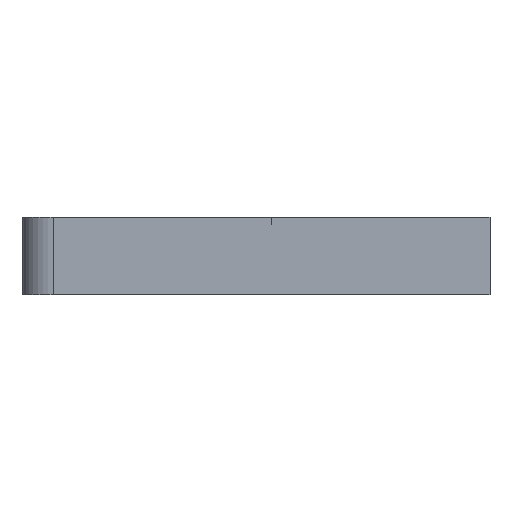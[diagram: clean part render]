
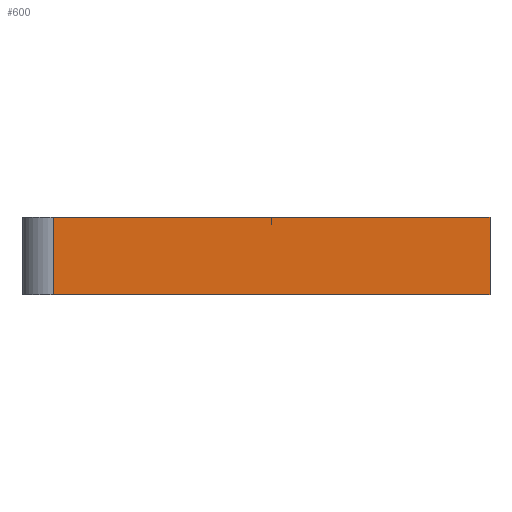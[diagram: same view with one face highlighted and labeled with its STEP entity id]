
A CAD part, left-side view. The second image highlights one B-rep face of the part: STEP entity #600.
In plain terms, the highlighted planar face has unit normal (-1, 0, 0).
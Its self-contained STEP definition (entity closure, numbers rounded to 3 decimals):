
#4 = VECTOR ( 'NONE', #616, 1000. ) ;
#9 = ORIENTED_EDGE ( 'NONE', *, *, #270, .T. ) ;
#14 = CARTESIAN_POINT ( 'NONE',  ( -102.937, -33.723, 5. ) ) ;
#23 = CARTESIAN_POINT ( 'NONE',  ( -102.937, -33.723, 5. ) ) ;
#30 = CARTESIAN_POINT ( 'NONE',  ( -102.937, -5.723, 5. ) ) ;
#67 = CARTESIAN_POINT ( 'NONE',  ( -102.937, -33.723, 0. ) ) ;
#72 = DIRECTION ( 'NONE',  ( 0., 0., -1. ) ) ;
#98 = VERTEX_POINT ( 'NONE', #152 ) ;
#104 = LINE ( 'NONE', #507, #143 ) ;
#112 = DIRECTION ( 'NONE',  ( 0., -1., 0. ) ) ;
#119 = FACE_OUTER_BOUND ( 'NONE', #574, .T. ) ;
#143 = VECTOR ( 'NONE', #72, 1000. ) ;
#152 = CARTESIAN_POINT ( 'NONE',  ( -102.937, -33.723, 0. ) ) ;
#160 = LINE ( 'NONE', #67, #612 ) ;
#165 = DIRECTION ( 'NONE',  ( 0., 0., -1. ) ) ;
#211 = LINE ( 'NONE', #309, #429 ) ;
#219 = ORIENTED_EDGE ( 'NONE', *, *, #629, .T. ) ;
#255 = CARTESIAN_POINT ( 'NONE',  ( -102.937, -5.723, 5. ) ) ;
#270 = EDGE_CURVE ( 'NONE', #555, #455, #456, .T. ) ;
#293 = CARTESIAN_POINT ( 'NONE',  ( -102.937, -5.723, 0. ) ) ;
#309 = CARTESIAN_POINT ( 'NONE',  ( -102.937, -33.723, 5. ) ) ;
#312 = DIRECTION ( 'NONE',  ( 1., 0., 0. ) ) ;
#375 = ORIENTED_EDGE ( 'NONE', *, *, #552, .F. ) ;
#399 = AXIS2_PLACEMENT_3D ( 'NONE', #14, #312, #165 ) ;
#410 = VERTEX_POINT ( 'NONE', #23 ) ;
#414 = DIRECTION ( 'NONE',  ( 0., -1., 0. ) ) ;
#429 = VECTOR ( 'NONE', #414, 1000. ) ;
#432 = ORIENTED_EDGE ( 'NONE', *, *, #618, .F. ) ;
#455 = VERTEX_POINT ( 'NONE', #293 ) ;
#456 = LINE ( 'NONE', #30, #4 ) ;
#507 = CARTESIAN_POINT ( 'NONE',  ( -102.937, -33.723, 5. ) ) ;
#547 = PLANE ( 'NONE',  #399 ) ;
#552 = EDGE_CURVE ( 'NONE', #555, #410, #211, .T. ) ;
#555 = VERTEX_POINT ( 'NONE', #255 ) ;
#574 = EDGE_LOOP ( 'NONE', ( #219, #432, #375, #9 ) ) ;
#600 = ADVANCED_FACE ( 'NONE', ( #119 ), #547, .F. ) ;
#612 = VECTOR ( 'NONE', #112, 1000. ) ;
#616 = DIRECTION ( 'NONE',  ( 0., 0., -1. ) ) ;
#618 = EDGE_CURVE ( 'NONE', #410, #98, #104, .T. ) ;
#629 = EDGE_CURVE ( 'NONE', #455, #98, #160, .T. ) ;
